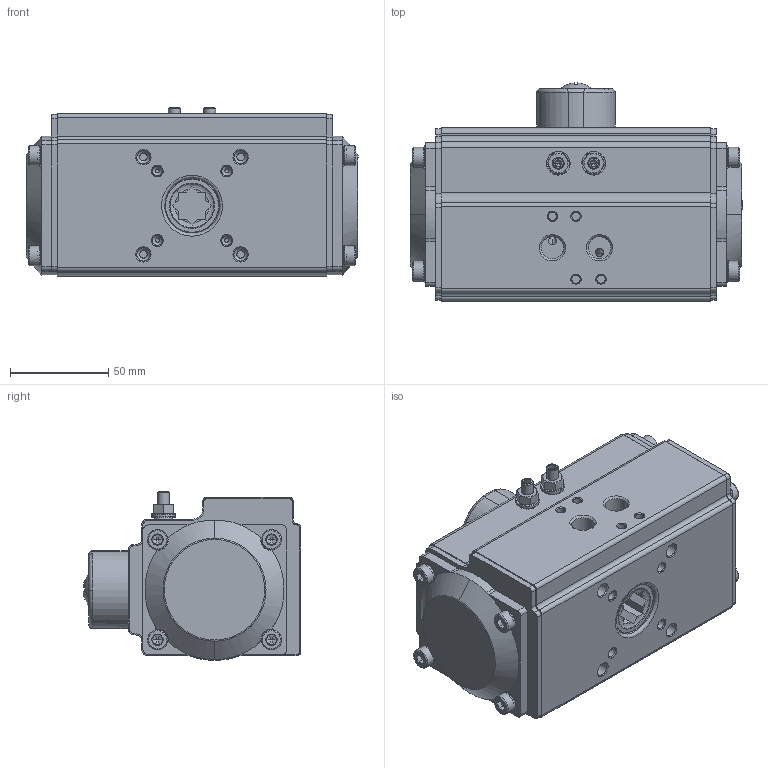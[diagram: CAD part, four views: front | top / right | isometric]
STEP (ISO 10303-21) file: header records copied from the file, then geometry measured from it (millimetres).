
FILE_DESCRIPTION(('STEP AP203'), '1');
FILE_NAME('3D_930-DA_SR-0043-14õ14', '', ('UNSPECIFIED'), ('UNSPECIFIED'), 'C3D Converter', 'C3D Toolkit', '');
FILE_SCHEMA(('CONFIG_CONTROL_DESIGN'));
Length unit declared in the file: millimetre
Assembly tree (45 placements, depth 3):
  (unnamed)
    (unnamed)
    (unnamed)
      (unnamed)
      (unnamed)
      (unnamed)
    (unnamed)  x2
    (unnamed)  x2
    (unnamed)  x2
    (unnamed)  x2
    (unnamed)
    (unnamed)
    (unnamed)
    (unnamed)
    (unnamed)  x4
    (unnamed)
    (unnamed)
    (unnamed)
    (unnamed)
    (unnamed)
    (unnamed)
    (unnamed)
    (unnamed)
    (unnamed)
    (unnamed)
    (unnamed)
      (unnamed)
      (unnamed)
      (unnamed)
      (unnamed)
      (unnamed)
      (unnamed)
      (unnamed)
      (unnamed)
      (unnamed)
      (unnamed)
    (unnamed)
    (unnamed)
    (unnamed)
Bounding box: 169 x 110.92 x 85.83 mm (x, y, z)
Volume: 565271.9 mm3; surface area: 169554.4 mm2
Topology: 43 solids, 43 shells, 1118 faces, 2498 edges, 1532 vertices
Faces by surface type: plane 453, cylinder 269, cone 170, bspline 132, torus 93, sphere 1
Full cylindrical faces by diameter (mm): 1 x2, 4.2 x8, 5 x15, 5.1 x2, 6 x13, 6.4 x2, 6.8 x4, 7 x8, 10 x2, 10.2 x8, 11.4 x2, 12 x2, 14 x2, 14.2 x1, 15 x14, 16.5 x1, 18 x7, 18.2 x1, 18.5 x2, 24 x2, 24.3 x1, 26 x2, 26.8 x1, 28 x4, 56 x1, 62.5 x2, 63.5 x1, 67.5 x2
Entity records: 75278 total; most frequent: CARTESIAN_POINT 44823, ORIENTED_EDGE 4084, DIRECTION 3864, EDGE_CURVE 2042, AXIS2_PLACEMENT_3D 1584, VERTEX_POINT 1395, EDGE_LOOP 1315, COLOUR_RGB 1024
